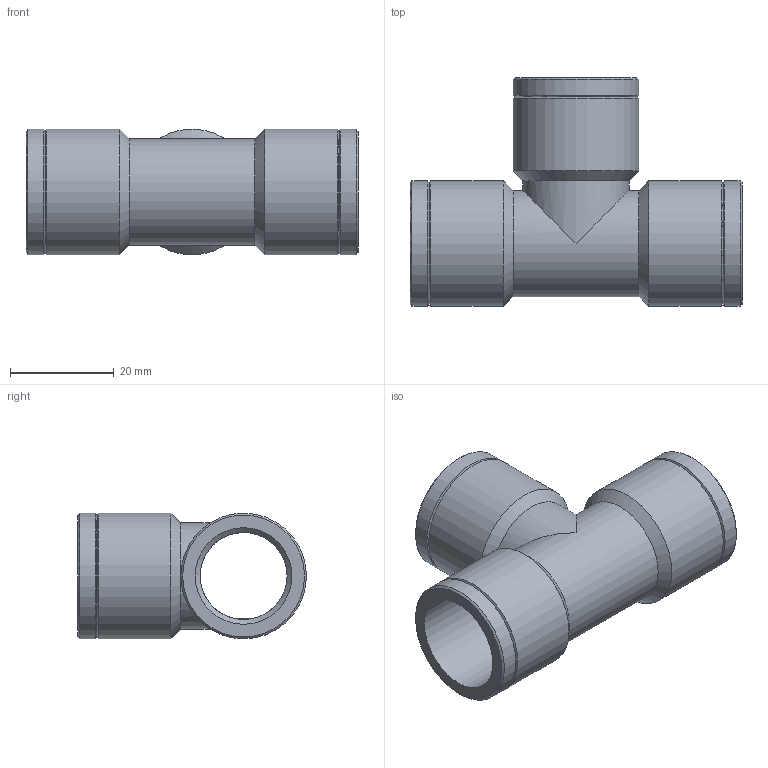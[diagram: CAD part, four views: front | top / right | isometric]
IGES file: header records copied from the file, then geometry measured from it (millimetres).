
Global section: file name: 050407005_0504070050A.ipt; native system: Autodesk Inventor 2015; preprocessor: unknown; author: KIM; date: 20170618.093157; units: millimetre
Bounding box: 64 x 44.11 x 24.22 mm (x, y, z)
Volume: 13680.9 mm3; surface area: 11701.5 mm2
Topology: 1 solids, 1 shells, 31 faces, 76 edges, 47 vertices
Faces by surface type: cone 12, revolution 8, cylinder 8, plane 3
Full cylindrical faces by diameter (mm): 20.494 x2, 24.22 x6
